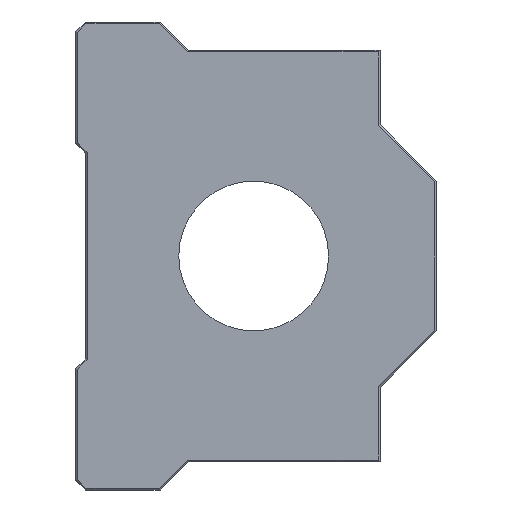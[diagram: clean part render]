
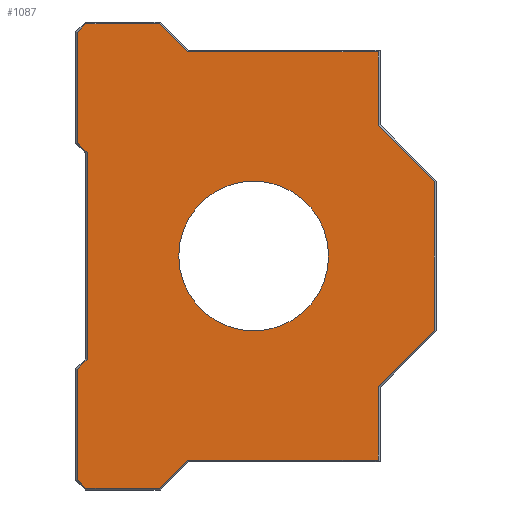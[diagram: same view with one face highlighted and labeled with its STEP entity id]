
A CAD part, left-side view. The second image highlights one B-rep face of the part: STEP entity #1087.
In plain terms, the highlighted planar face has unit normal (-1, 0, 0).
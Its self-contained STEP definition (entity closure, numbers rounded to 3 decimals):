
#32=FACE_BOUND('',#170,.T.);
#55=CIRCLE('',#1163,8.);
#96=FACE_OUTER_BOUND('',#169,.T.);
#169=EDGE_LOOP('',(#828,#829,#830,#831,#832,#833,#834,#835,#836,#837,#838,
#839,#840,#841,#842,#843,#844,#845));
#170=EDGE_LOOP('',(#846));
#230=LINE('',#1524,#356);
#234=LINE('',#1532,#360);
#237=LINE('',#1538,#363);
#240=LINE('',#1544,#366);
#243=LINE('',#1550,#369);
#246=LINE('',#1556,#372);
#249=LINE('',#1562,#375);
#252=LINE('',#1568,#378);
#255=LINE('',#1574,#381);
#258=LINE('',#1580,#384);
#262=LINE('',#1588,#388);
#265=LINE('',#1594,#391);
#268=LINE('',#1600,#394);
#271=LINE('',#1606,#397);
#274=LINE('',#1612,#400);
#277=LINE('',#1618,#403);
#280=LINE('',#1624,#406);
#283=LINE('',#1628,#409);
#356=VECTOR('',#1222,10.);
#360=VECTOR('',#1228,10.);
#363=VECTOR('',#1233,10.);
#366=VECTOR('',#1238,10.);
#369=VECTOR('',#1243,10.);
#372=VECTOR('',#1248,10.);
#375=VECTOR('',#1253,10.);
#378=VECTOR('',#1258,10.);
#381=VECTOR('',#1263,10.);
#384=VECTOR('',#1268,10.);
#388=VECTOR('',#1274,10.);
#391=VECTOR('',#1279,10.);
#394=VECTOR('',#1284,10.);
#397=VECTOR('',#1289,10.);
#400=VECTOR('',#1294,10.);
#403=VECTOR('',#1299,10.);
#406=VECTOR('',#1304,10.);
#409=VECTOR('',#1309,10.);
#482=VERTEX_POINT('',#1522);
#483=VERTEX_POINT('',#1523);
#486=VERTEX_POINT('',#1531);
#488=VERTEX_POINT('',#1537);
#490=VERTEX_POINT('',#1543);
#492=VERTEX_POINT('',#1549);
#494=VERTEX_POINT('',#1555);
#496=VERTEX_POINT('',#1561);
#498=VERTEX_POINT('',#1567);
#500=VERTEX_POINT('',#1573);
#502=VERTEX_POINT('',#1579);
#505=VERTEX_POINT('',#1587);
#507=VERTEX_POINT('',#1593);
#509=VERTEX_POINT('',#1599);
#511=VERTEX_POINT('',#1605);
#513=VERTEX_POINT('',#1611);
#515=VERTEX_POINT('',#1617);
#517=VERTEX_POINT('',#1623);
#532=VERTEX_POINT('',#1676);
#572=EDGE_CURVE('',#482,#483,#230,.T.);
#576=EDGE_CURVE('',#483,#486,#234,.T.);
#579=EDGE_CURVE('',#486,#488,#237,.T.);
#582=EDGE_CURVE('',#488,#490,#240,.T.);
#585=EDGE_CURVE('',#490,#492,#243,.T.);
#588=EDGE_CURVE('',#492,#494,#246,.T.);
#591=EDGE_CURVE('',#494,#496,#249,.T.);
#594=EDGE_CURVE('',#496,#498,#252,.T.);
#597=EDGE_CURVE('',#498,#500,#255,.T.);
#600=EDGE_CURVE('',#500,#502,#258,.T.);
#604=EDGE_CURVE('',#502,#505,#262,.T.);
#607=EDGE_CURVE('',#505,#507,#265,.T.);
#610=EDGE_CURVE('',#507,#509,#268,.T.);
#613=EDGE_CURVE('',#509,#511,#271,.T.);
#616=EDGE_CURVE('',#511,#513,#274,.T.);
#619=EDGE_CURVE('',#513,#515,#277,.T.);
#622=EDGE_CURVE('',#515,#517,#280,.T.);
#625=EDGE_CURVE('',#517,#482,#283,.T.);
#649=EDGE_CURVE('',#532,#532,#55,.T.);
#828=ORIENTED_EDGE('',*,*,#572,.F.);
#829=ORIENTED_EDGE('',*,*,#625,.F.);
#830=ORIENTED_EDGE('',*,*,#622,.F.);
#831=ORIENTED_EDGE('',*,*,#619,.F.);
#832=ORIENTED_EDGE('',*,*,#616,.F.);
#833=ORIENTED_EDGE('',*,*,#613,.F.);
#834=ORIENTED_EDGE('',*,*,#610,.F.);
#835=ORIENTED_EDGE('',*,*,#607,.F.);
#836=ORIENTED_EDGE('',*,*,#604,.F.);
#837=ORIENTED_EDGE('',*,*,#600,.F.);
#838=ORIENTED_EDGE('',*,*,#597,.F.);
#839=ORIENTED_EDGE('',*,*,#594,.F.);
#840=ORIENTED_EDGE('',*,*,#591,.F.);
#841=ORIENTED_EDGE('',*,*,#588,.F.);
#842=ORIENTED_EDGE('',*,*,#585,.F.);
#843=ORIENTED_EDGE('',*,*,#582,.F.);
#844=ORIENTED_EDGE('',*,*,#579,.F.);
#845=ORIENTED_EDGE('',*,*,#576,.F.);
#846=ORIENTED_EDGE('',*,*,#649,.T.);
#1031=PLANE('',#1162);
#1087=ADVANCED_FACE('',(#96,#32),#1031,.T.);
#1162=AXIS2_PLACEMENT_3D('',#1675,#1355,#1356);
#1163=AXIS2_PLACEMENT_3D('',#1677,#1357,#1358);
#1222=DIRECTION('',(0.,0.707,-0.707));
#1228=DIRECTION('',(0.,1.,0.));
#1233=DIRECTION('',(0.,0.707,0.707));
#1238=DIRECTION('',(0.,0.,1.));
#1243=DIRECTION('',(0.,-0.707,0.707));
#1248=DIRECTION('',(0.,0.,1.));
#1253=DIRECTION('',(0.,0.707,0.707));
#1258=DIRECTION('',(0.,0.,1.));
#1263=DIRECTION('',(0.,-0.707,0.707));
#1268=DIRECTION('',(0.,-1.,0.));
#1274=DIRECTION('',(0.,-0.707,-0.707));
#1279=DIRECTION('',(0.,-1.,0.));
#1284=DIRECTION('',(0.,0.,-1.));
#1289=DIRECTION('',(0.,-0.707,-0.707));
#1294=DIRECTION('',(0.,0.,-1.));
#1299=DIRECTION('',(0.,0.707,-0.707));
#1304=DIRECTION('',(0.,0.,-1.));
#1309=DIRECTION('',(0.,1.,0.));
#1355=DIRECTION('center_axis',(-1.,0.,0.));
#1356=DIRECTION('ref_axis',(0.,0.,1.));
#1357=DIRECTION('center_axis',(1.,0.,0.));
#1358=DIRECTION('ref_axis',(0.,-1.,0.));
#1522=CARTESIAN_POINT('',(-44.,26.583,-21.8));
#1523=CARTESIAN_POINT('',(-44.,29.583,-24.8));
#1524=CARTESIAN_POINT('',(-44.,18.362,-13.579));
#1531=CARTESIAN_POINT('',(-44.,37.417,-24.8));
#1532=CARTESIAN_POINT('',(-44.,29.029,-24.8));
#1537=CARTESIAN_POINT('',(-44.,38.3,-23.917));
#1538=CARTESIAN_POINT('',(-44.,42.667,-19.55));
#1543=CARTESIAN_POINT('',(-44.,38.3,-12.083));
#1544=CARTESIAN_POINT('',(-44.,38.3,-0.412));
#1549=CARTESIAN_POINT('',(-44.,37.3,-11.083));
#1550=CARTESIAN_POINT('',(-44.,27.579,-1.362));
#1555=CARTESIAN_POINT('',(-44.,37.3,11.083));
#1556=CARTESIAN_POINT('',(-44.,37.3,5.588));
#1561=CARTESIAN_POINT('',(-44.,38.3,12.083));
#1562=CARTESIAN_POINT('',(-44.,33.667,7.45));
#1567=CARTESIAN_POINT('',(-44.,38.3,23.917));
#1568=CARTESIAN_POINT('',(-44.,38.3,17.588));
#1573=CARTESIAN_POINT('',(-44.,37.417,24.8));
#1574=CARTESIAN_POINT('',(-44.,36.579,25.638));
#1579=CARTESIAN_POINT('',(-44.,29.583,24.8));
#1580=CARTESIAN_POINT('',(-44.,25.029,24.8));
#1587=CARTESIAN_POINT('',(-44.,26.583,21.8));
#1588=CARTESIAN_POINT('',(-44.,22.45,17.667));
#1593=CARTESIAN_POINT('',(-44.,6.2,21.8));
#1594=CARTESIAN_POINT('',(-44.,13.279,21.8));
#1599=CARTESIAN_POINT('',(-44.,6.2,13.917));
#1600=CARTESIAN_POINT('',(-44.,6.2,12.588));
#1605=CARTESIAN_POINT('',(-44.,0.2,7.917));
#1606=CARTESIAN_POINT('',(-44.,6.075,13.792));
#1611=CARTESIAN_POINT('',(-44.,0.2,-7.917));
#1612=CARTESIAN_POINT('',(-44.,0.2,5.588));
#1617=CARTESIAN_POINT('',(-44.,6.2,-13.917));
#1618=CARTESIAN_POINT('',(-44.,3.487,-11.204));
#1623=CARTESIAN_POINT('',(-44.,6.2,-21.8));
#1624=CARTESIAN_POINT('',(-44.,6.2,-5.412));
#1628=CARTESIAN_POINT('',(-44.,23.529,-21.8));
#1675=CARTESIAN_POINT('Origin',(-44.,20.559,11.177));
#1676=CARTESIAN_POINT('',(-44.,27.5,0.));
#1677=CARTESIAN_POINT('Origin',(-44.,19.5,0.));
